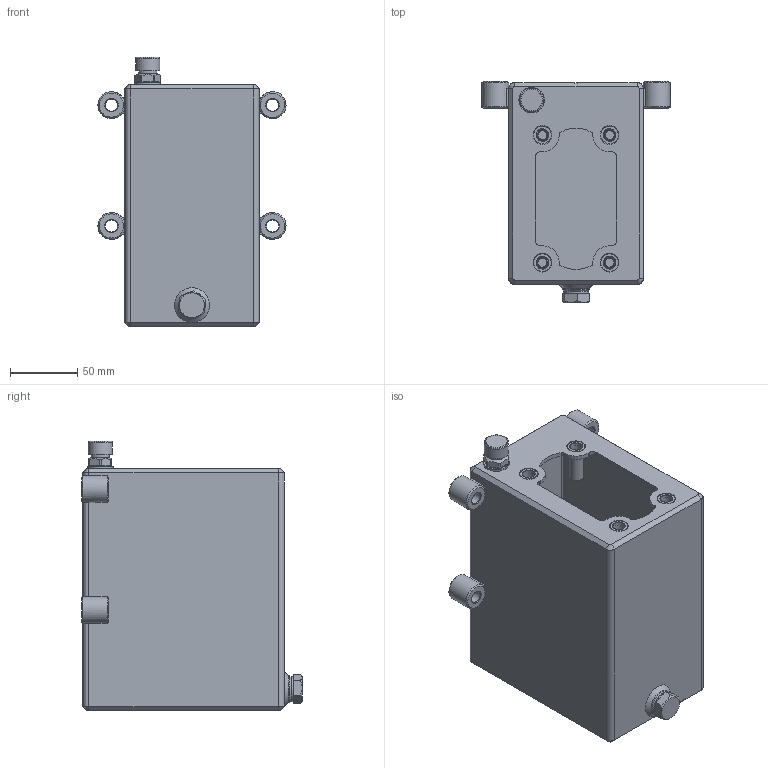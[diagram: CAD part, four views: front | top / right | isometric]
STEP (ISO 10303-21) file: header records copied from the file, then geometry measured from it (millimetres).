
FILE_DESCRIPTION(/* description */ ('Unknown'),/* implementation_level */ '2;1');
FILE_NAME(/* name */ 'SR02FE',/* time_stamp */ '2024-11-28T09:36:34+01:00',/* author */ ('Unknown'),/* organization */ ('Unknown'),/* preprocessor_version */ 'ST-DEVELOPER v19.4',/* originating_system */ 'Solid Edge',/* authorisation */ 'Unknown');
FILE_SCHEMA (('AUTOMOTIVE_DESIGN {1 0 10303 214 3 1 1}'));
Length unit declared in the file: millimetre
Products named in the file (1): SR02FE
Bounding box: 140 x 164.5 x 200.6 mm (x, y, z)
Volume: 354601.2 mm3; surface area: 235889.9 mm2
Topology: 2 solids, 2 shells, 267 faces, 630 edges, 391 vertices
Faces by surface type: plane 129, cylinder 73, cone 46, torus 19
Full cylindrical faces by diameter (mm): 5.8 x1, 6.647 x8, 9 x4, 9.15 x4, 10.5 x1, 10.88 x4, 10.9 x4, 13.157 x1, 13.2 x4, 13.5 x1, 15 x1, 16.8 x1, 17 x1, 18 x1, 19 x2, 20 x6, 20.1 x1
Entity records: 8645 total; most frequent: DIRECTION 1247, CARTESIAN_POINT 1170, ORIENTED_EDGE 972, AXIS2_PLACEMENT_3D 507, EDGE_CURVE 486, EDGE_LOOP 406, FACE_BOUND 406, VERTEX_POINT 348
